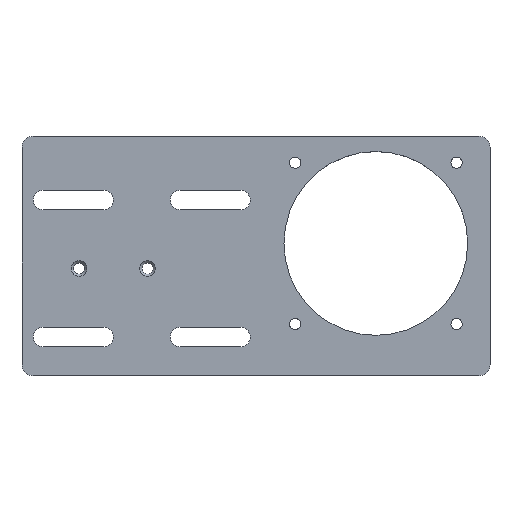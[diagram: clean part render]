
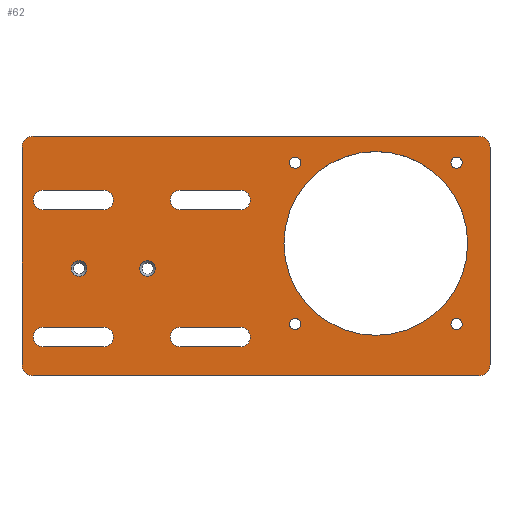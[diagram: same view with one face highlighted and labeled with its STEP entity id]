
A CAD part, top view. The second image highlights one B-rep face of the part: STEP entity #62.
In plain terms, the highlighted planar face has unit normal (0, 0, 1).
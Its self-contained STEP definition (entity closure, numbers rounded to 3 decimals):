
#62=ADVANCED_FACE('',(#433,#435,#437,#439,#441,#443,#445,#447,#449,#451,#453,#455),
#457,.T.);
#433=FACE_BOUND('',#434,.T.);
#434=EDGE_LOOP('',(#778,#779,#780,#781,#782,#783,#784,#785));
#435=FACE_BOUND('',#436,.T.);
#436=EDGE_LOOP('',(#786));
#437=FACE_BOUND('',#438,.T.);
#438=EDGE_LOOP('',(#787));
#439=FACE_BOUND('',#440,.T.);
#440=EDGE_LOOP('',(#788));
#441=FACE_BOUND('',#442,.T.);
#442=EDGE_LOOP('',(#789));
#443=FACE_BOUND('',#444,.T.);
#444=EDGE_LOOP('',(#790,#791,#792,#793));
#445=FACE_BOUND('',#446,.T.);
#446=EDGE_LOOP('',(#794,#795,#796,#797));
#447=FACE_BOUND('',#448,.T.);
#448=EDGE_LOOP('',(#798,#799,#800,#801));
#449=FACE_BOUND('',#450,.T.);
#450=EDGE_LOOP('',(#802,#803,#804,#805));
#451=FACE_BOUND('',#452,.T.);
#452=EDGE_LOOP('',(#806));
#453=FACE_BOUND('',#454,.T.);
#454=EDGE_LOOP('',(#807));
#455=FACE_BOUND('',#456,.T.);
#456=EDGE_LOOP('',(#808));
#457=PLANE('',#458);
#458=AXIS2_PLACEMENT_3D('',#459,#460,#461);
#459=CARTESIAN_POINT('',(0.,0.,14.));
#460=DIRECTION('',(0.,0.,1.));
#461=DIRECTION('',(-1.,0.,0.));
#778=ORIENTED_EDGE('',*,*,#962,.T.);
#779=ORIENTED_EDGE('',*,*,#963,.T.);
#780=ORIENTED_EDGE('',*,*,#964,.T.);
#781=ORIENTED_EDGE('',*,*,#965,.T.);
#782=ORIENTED_EDGE('',*,*,#966,.T.);
#783=ORIENTED_EDGE('',*,*,#967,.T.);
#784=ORIENTED_EDGE('',*,*,#968,.T.);
#785=ORIENTED_EDGE('',*,*,#969,.T.);
#786=ORIENTED_EDGE('',*,*,#970,.T.);
#787=ORIENTED_EDGE('',*,*,#971,.T.);
#788=ORIENTED_EDGE('',*,*,#972,.T.);
#789=ORIENTED_EDGE('',*,*,#973,.T.);
#790=ORIENTED_EDGE('',*,*,#974,.T.);
#791=ORIENTED_EDGE('',*,*,#975,.T.);
#792=ORIENTED_EDGE('',*,*,#976,.T.);
#793=ORIENTED_EDGE('',*,*,#977,.T.);
#794=ORIENTED_EDGE('',*,*,#978,.T.);
#795=ORIENTED_EDGE('',*,*,#979,.T.);
#796=ORIENTED_EDGE('',*,*,#980,.T.);
#797=ORIENTED_EDGE('',*,*,#981,.T.);
#798=ORIENTED_EDGE('',*,*,#982,.T.);
#799=ORIENTED_EDGE('',*,*,#983,.T.);
#800=ORIENTED_EDGE('',*,*,#984,.T.);
#801=ORIENTED_EDGE('',*,*,#985,.T.);
#802=ORIENTED_EDGE('',*,*,#986,.T.);
#803=ORIENTED_EDGE('',*,*,#987,.T.);
#804=ORIENTED_EDGE('',*,*,#988,.T.);
#805=ORIENTED_EDGE('',*,*,#989,.T.);
#806=ORIENTED_EDGE('',*,*,#990,.T.);
#807=ORIENTED_EDGE('',*,*,#991,.T.);
#808=ORIENTED_EDGE('',*,*,#992,.T.);
#962=EDGE_CURVE('',#1085,#1086,#1087,.T.);
#963=EDGE_CURVE('',#1086,#1088,#1089,.T.);
#964=EDGE_CURVE('',#1088,#1090,#1091,.T.);
#965=EDGE_CURVE('',#1090,#1092,#1093,.T.);
#966=EDGE_CURVE('',#1092,#1094,#1095,.T.);
#967=EDGE_CURVE('',#1094,#1096,#1097,.T.);
#968=EDGE_CURVE('',#1096,#1098,#1099,.T.);
#969=EDGE_CURVE('',#1098,#1085,#1100,.T.);
#970=EDGE_CURVE('',#1101,#1101,#1102,.F.);
#971=EDGE_CURVE('',#1103,#1103,#1104,.F.);
#972=EDGE_CURVE('',#1105,#1105,#1106,.F.);
#973=EDGE_CURVE('',#1107,#1107,#1108,.F.);
#974=EDGE_CURVE('',#1109,#1110,#1111,.F.);
#975=EDGE_CURVE('',#1110,#1112,#1113,.F.);
#976=EDGE_CURVE('',#1112,#1114,#1115,.F.);
#977=EDGE_CURVE('',#1114,#1109,#1116,.F.);
#978=EDGE_CURVE('',#1117,#1118,#1119,.F.);
#979=EDGE_CURVE('',#1118,#1120,#1121,.F.);
#980=EDGE_CURVE('',#1120,#1122,#1123,.F.);
#981=EDGE_CURVE('',#1122,#1117,#1124,.F.);
#982=EDGE_CURVE('',#1125,#1126,#1127,.F.);
#983=EDGE_CURVE('',#1126,#1128,#1129,.F.);
#984=EDGE_CURVE('',#1128,#1130,#1131,.F.);
#985=EDGE_CURVE('',#1130,#1125,#1132,.F.);
#986=EDGE_CURVE('',#1133,#1134,#1135,.F.);
#987=EDGE_CURVE('',#1134,#1136,#1137,.F.);
#988=EDGE_CURVE('',#1136,#1138,#1139,.F.);
#989=EDGE_CURVE('',#1138,#1133,#1140,.F.);
#990=EDGE_CURVE('',#1141,#1141,#1142,.F.);
#991=EDGE_CURVE('',#1143,#1143,#1144,.F.);
#992=EDGE_CURVE('',#1145,#1145,#1146,.F.);
#1085=VERTEX_POINT('',#1326);
#1086=VERTEX_POINT('',#1327);
#1087=CIRCLE('',#1328,5.);
#1088=VERTEX_POINT('',#1332);
#1089=LINE('',#1333,#1334);
#1090=VERTEX_POINT('',#1336);
#1091=CIRCLE('',#1337,5.);
#1092=VERTEX_POINT('',#1341);
#1093=LINE('',#1342,#1343);
#1094=VERTEX_POINT('',#1345);
#1095=CIRCLE('',#1346,5.);
#1096=VERTEX_POINT('',#1350);
#1097=LINE('',#1351,#1352);
#1098=VERTEX_POINT('',#1354);
#1099=CIRCLE('',#1355,5.);
#1100=LINE('',#1359,#1360);
#1101=VERTEX_POINT('',#1362);
#1102=CIRCLE('',#1363,3.459);
#1103=VERTEX_POINT('',#1367);
#1104=CIRCLE('',#1368,2.459);
#1105=VERTEX_POINT('',#1372);
#1106=CIRCLE('',#1373,2.459);
#1107=VERTEX_POINT('',#1377);
#1108=CIRCLE('',#1378,40.25);
#1109=VERTEX_POINT('',#1382);
#1110=VERTEX_POINT('',#1383);
#1111=CIRCLE('',#1384,4.25);
#1112=VERTEX_POINT('',#1388);
#1113=LINE('',#1389,#1390);
#1114=VERTEX_POINT('',#1392);
#1115=CIRCLE('',#1393,4.25);
#1116=LINE('',#1397,#1398);
#1117=VERTEX_POINT('',#1400);
#1118=VERTEX_POINT('',#1401);
#1119=CIRCLE('',#1402,4.25);
#1120=VERTEX_POINT('',#1406);
#1121=LINE('',#1407,#1408);
#1122=VERTEX_POINT('',#1410);
#1123=CIRCLE('',#1411,4.25);
#1124=LINE('',#1415,#1416);
#1125=VERTEX_POINT('',#1418);
#1126=VERTEX_POINT('',#1419);
#1127=CIRCLE('',#1420,4.25);
#1128=VERTEX_POINT('',#1424);
#1129=LINE('',#1425,#1426);
#1130=VERTEX_POINT('',#1428);
#1131=CIRCLE('',#1429,4.25);
#1132=LINE('',#1433,#1434);
#1133=VERTEX_POINT('',#1436);
#1134=VERTEX_POINT('',#1437);
#1135=CIRCLE('',#1438,4.25);
#1136=VERTEX_POINT('',#1442);
#1137=LINE('',#1443,#1444);
#1138=VERTEX_POINT('',#1446);
#1139=CIRCLE('',#1447,4.25);
#1140=LINE('',#1451,#1452);
#1141=VERTEX_POINT('',#1454);
#1142=CIRCLE('',#1455,2.459);
#1143=VERTEX_POINT('',#1459);
#1144=CIRCLE('',#1460,2.459);
#1145=VERTEX_POINT('',#1464);
#1146=CIRCLE('',#1465,3.459);
#1326=CARTESIAN_POINT('',(-50.,45.,14.));
#1327=CARTESIAN_POINT('',(-45.,40.,14.));
#1328=AXIS2_PLACEMENT_3D('',#1329,#1330,#1331);
#1329=CARTESIAN_POINT('',(-45.,45.,14.));
#1330=DIRECTION('',(0.,0.,1.));
#1331=DIRECTION('',(-1.,0.,0.));
#1332=CARTESIAN_POINT('',(150.,40.,14.));
#1333=CARTESIAN_POINT('',(-45.,40.,14.));
#1334=VECTOR('',#1335,1.);
#1335=DIRECTION('',(1.,0.,0.));
#1336=CARTESIAN_POINT('',(155.,45.,14.));
#1337=AXIS2_PLACEMENT_3D('',#1338,#1339,#1340);
#1338=CARTESIAN_POINT('',(150.,45.,14.));
#1339=DIRECTION('',(0.,0.,1.));
#1340=DIRECTION('',(0.,-1.,0.));
#1341=CARTESIAN_POINT('',(155.,140.,14.));
#1342=CARTESIAN_POINT('',(155.,45.,14.));
#1343=VECTOR('',#1344,1.);
#1344=DIRECTION('',(0.,1.,0.));
#1345=CARTESIAN_POINT('',(150.,145.,14.));
#1346=AXIS2_PLACEMENT_3D('',#1347,#1348,#1349);
#1347=CARTESIAN_POINT('',(150.,140.,14.));
#1348=DIRECTION('',(0.,0.,1.));
#1349=DIRECTION('',(1.,0.,0.));
#1350=CARTESIAN_POINT('',(-45.,145.,14.));
#1351=CARTESIAN_POINT('',(150.,145.,14.));
#1352=VECTOR('',#1353,1.);
#1353=DIRECTION('',(-1.,0.,0.));
#1354=CARTESIAN_POINT('',(-50.,140.,14.));
#1355=AXIS2_PLACEMENT_3D('',#1356,#1357,#1358);
#1356=CARTESIAN_POINT('',(-45.,140.,14.));
#1357=DIRECTION('',(0.,0.,1.));
#1358=DIRECTION('',(0.,1.,0.));
#1359=CARTESIAN_POINT('',(-50.,140.,14.));
#1360=VECTOR('',#1361,1.);
#1361=DIRECTION('',(0.,-1.,0.));
#1362=CARTESIAN_POINT('',(1.541,87.,14.));
#1363=AXIS2_PLACEMENT_3D('',#1364,#1365,#1366);
#1364=CARTESIAN_POINT('',(5.,87.,14.));
#1365=DIRECTION('',(0.,0.,1.));
#1366=DIRECTION('',(-1.,0.,0.));
#1367=CARTESIAN_POINT('',(137.897,133.355,14.));
#1368=AXIS2_PLACEMENT_3D('',#1369,#1370,#1371);
#1369=CARTESIAN_POINT('',(140.355,133.355,14.));
#1370=DIRECTION('',(0.,0.,1.));
#1371=DIRECTION('',(-1.,0.,0.));
#1372=CARTESIAN_POINT('',(137.897,62.645,14.));
#1373=AXIS2_PLACEMENT_3D('',#1374,#1375,#1376);
#1374=CARTESIAN_POINT('',(140.355,62.645,14.));
#1375=DIRECTION('',(0.,0.,1.));
#1376=DIRECTION('',(-1.,0.,0.));
#1377=CARTESIAN_POINT('',(64.75,98.,14.));
#1378=AXIS2_PLACEMENT_3D('',#1379,#1380,#1381);
#1379=CARTESIAN_POINT('',(105.,98.,14.));
#1380=DIRECTION('',(0.,0.,1.));
#1381=DIRECTION('',(-1.,0.,0.));
#1382=CARTESIAN_POINT('',(-40.75,112.75,14.));
#1383=CARTESIAN_POINT('',(-40.75,121.25,14.));
#1384=AXIS2_PLACEMENT_3D('',#1385,#1386,#1387);
#1385=CARTESIAN_POINT('',(-40.75,117.,14.));
#1386=DIRECTION('',(0.,0.,1.));
#1387=DIRECTION('',(0.,1.,0.));
#1388=CARTESIAN_POINT('',(-14.25,121.25,14.));
#1389=CARTESIAN_POINT('',(-14.25,121.25,14.));
#1390=VECTOR('',#1391,1.);
#1391=DIRECTION('',(-1.,0.,0.));
#1392=CARTESIAN_POINT('',(-14.25,112.75,14.));
#1393=AXIS2_PLACEMENT_3D('',#1394,#1395,#1396);
#1394=CARTESIAN_POINT('',(-14.25,117.,14.));
#1395=DIRECTION('',(0.,0.,1.));
#1396=DIRECTION('',(0.,-1.,0.));
#1397=CARTESIAN_POINT('',(-40.75,112.75,14.));
#1398=VECTOR('',#1399,1.);
#1399=DIRECTION('',(1.,0.,0.));
#1400=CARTESIAN_POINT('',(19.25,112.75,14.));
#1401=CARTESIAN_POINT('',(19.25,121.25,14.));
#1402=AXIS2_PLACEMENT_3D('',#1403,#1404,#1405);
#1403=CARTESIAN_POINT('',(19.25,117.,14.));
#1404=DIRECTION('',(0.,0.,1.));
#1405=DIRECTION('',(0.,1.,0.));
#1406=CARTESIAN_POINT('',(45.75,121.25,14.));
#1407=CARTESIAN_POINT('',(45.75,121.25,14.));
#1408=VECTOR('',#1409,1.);
#1409=DIRECTION('',(-1.,0.,0.));
#1410=CARTESIAN_POINT('',(45.75,112.75,14.));
#1411=AXIS2_PLACEMENT_3D('',#1412,#1413,#1414);
#1412=CARTESIAN_POINT('',(45.75,117.,14.));
#1413=DIRECTION('',(0.,0.,1.));
#1414=DIRECTION('',(0.,-1.,0.));
#1415=CARTESIAN_POINT('',(19.25,112.75,14.));
#1416=VECTOR('',#1417,1.);
#1417=DIRECTION('',(1.,0.,0.));
#1418=CARTESIAN_POINT('',(-40.75,52.75,14.));
#1419=CARTESIAN_POINT('',(-40.75,61.25,14.));
#1420=AXIS2_PLACEMENT_3D('',#1421,#1422,#1423);
#1421=CARTESIAN_POINT('',(-40.75,57.,14.));
#1422=DIRECTION('',(0.,0.,1.));
#1423=DIRECTION('',(0.,1.,0.));
#1424=CARTESIAN_POINT('',(-14.25,61.25,14.));
#1425=CARTESIAN_POINT('',(-14.25,61.25,14.));
#1426=VECTOR('',#1427,1.);
#1427=DIRECTION('',(-1.,0.,0.));
#1428=CARTESIAN_POINT('',(-14.25,52.75,14.));
#1429=AXIS2_PLACEMENT_3D('',#1430,#1431,#1432);
#1430=CARTESIAN_POINT('',(-14.25,57.,14.));
#1431=DIRECTION('',(0.,0.,1.));
#1432=DIRECTION('',(0.,-1.,0.));
#1433=CARTESIAN_POINT('',(-40.75,52.75,14.));
#1434=VECTOR('',#1435,1.);
#1435=DIRECTION('',(1.,0.,0.));
#1436=CARTESIAN_POINT('',(45.75,61.25,14.));
#1437=CARTESIAN_POINT('',(45.75,52.75,14.));
#1438=AXIS2_PLACEMENT_3D('',#1439,#1440,#1441);
#1439=CARTESIAN_POINT('',(45.75,57.,14.));
#1440=DIRECTION('',(0.,0.,1.));
#1441=DIRECTION('',(0.,-1.,0.));
#1442=CARTESIAN_POINT('',(19.25,52.75,14.));
#1443=CARTESIAN_POINT('',(19.25,52.75,14.));
#1444=VECTOR('',#1445,1.);
#1445=DIRECTION('',(1.,0.,0.));
#1446=CARTESIAN_POINT('',(19.25,61.25,14.));
#1447=AXIS2_PLACEMENT_3D('',#1448,#1449,#1450);
#1448=CARTESIAN_POINT('',(19.25,57.,14.));
#1449=DIRECTION('',(0.,0.,1.));
#1450=DIRECTION('',(0.,1.,0.));
#1451=CARTESIAN_POINT('',(45.75,61.25,14.));
#1452=VECTOR('',#1453,1.);
#1453=DIRECTION('',(-1.,0.,0.));
#1454=CARTESIAN_POINT('',(67.186,62.645,14.));
#1455=AXIS2_PLACEMENT_3D('',#1456,#1457,#1458);
#1456=CARTESIAN_POINT('',(69.645,62.645,14.));
#1457=DIRECTION('',(0.,0.,1.));
#1458=DIRECTION('',(-1.,0.,0.));
#1459=CARTESIAN_POINT('',(67.186,133.355,14.));
#1460=AXIS2_PLACEMENT_3D('',#1461,#1462,#1463);
#1461=CARTESIAN_POINT('',(69.645,133.355,14.));
#1462=DIRECTION('',(0.,0.,1.));
#1463=DIRECTION('',(-1.,0.,0.));
#1464=CARTESIAN_POINT('',(-28.459,87.,14.));
#1465=AXIS2_PLACEMENT_3D('',#1466,#1467,#1468);
#1466=CARTESIAN_POINT('',(-25.,87.,14.));
#1467=DIRECTION('',(0.,0.,1.));
#1468=DIRECTION('',(-1.,0.,0.));
